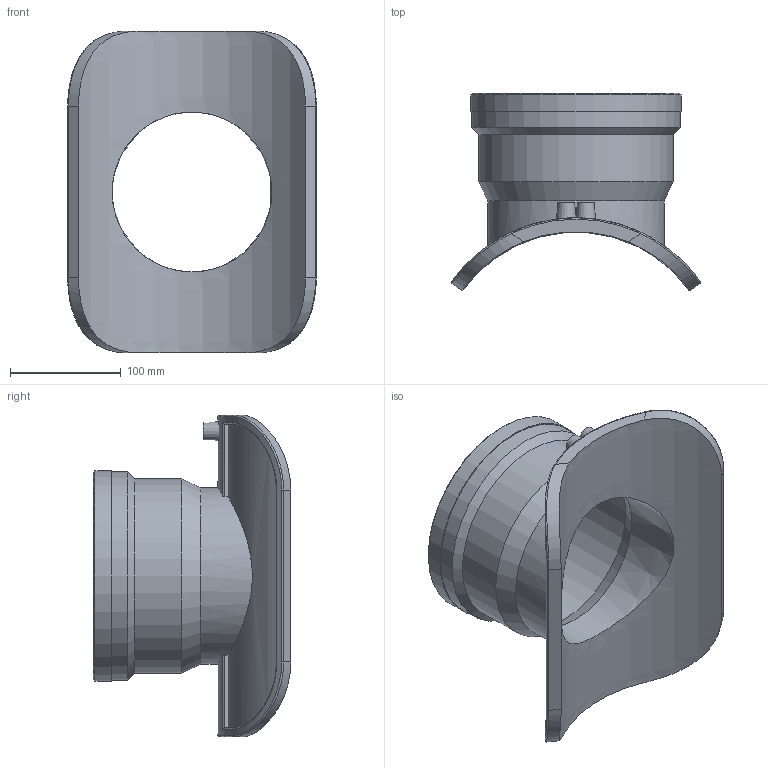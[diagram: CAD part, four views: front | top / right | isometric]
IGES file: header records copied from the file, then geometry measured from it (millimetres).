
Global section: file name: 4758V4250160.ipt; native system: Autodesk Inventor 2015; preprocessor: unknown; author: Кирилл,,11,0; organization: 20170830.202409; date: 20171106.093512; units: millimetre
Bounding box: 224.01 x 178.13 x 290 mm (x, y, z)
Volume: 1124949.6 mm3; surface area: 267225 mm2
Topology: 1 solids, 1 shells, 85 faces, 205 edges, 131 vertices
Faces by surface type: cylinder 24, revolution 24, plane 23, bspline 8, cone 6
Full cylindrical faces by diameter (mm): 4 x2, 159 x1, 160 x1, 175 x1, 188.1 x1, 190 x1
